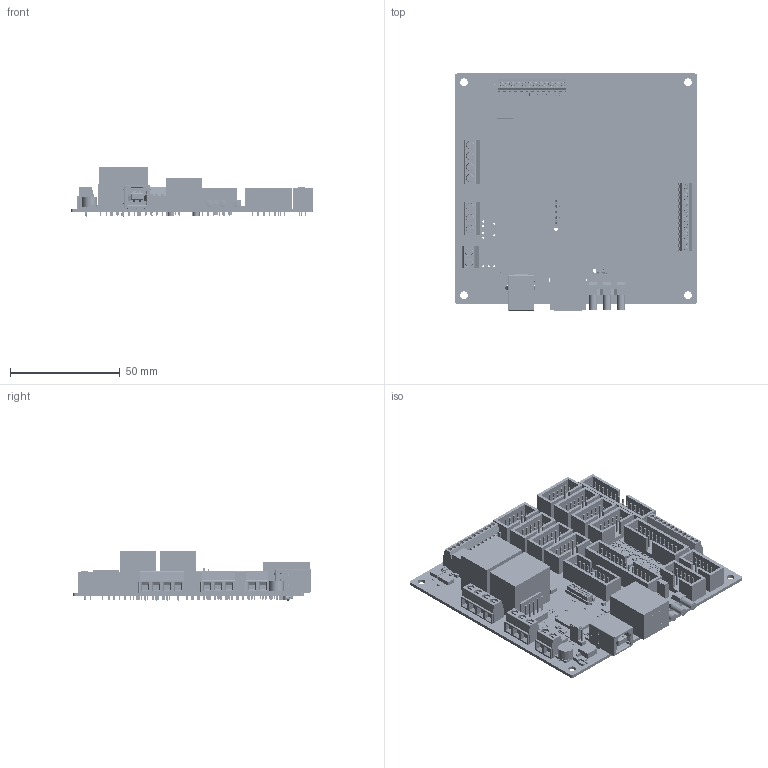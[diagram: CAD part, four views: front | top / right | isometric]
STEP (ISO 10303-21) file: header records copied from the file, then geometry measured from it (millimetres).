
FILE_DESCRIPTION(('Open CASCADE Model'),'2;1');
FILE_NAME('Open CASCADE Shape Model','2016-01-28T15:09:48',('Author'),( 'Open CASCADE'),'Open CASCADE STEP processor 6.8','Open CASCADE 6.8' ,'Unknown');
FILE_SCHEMA(('AUTOMOTIVE_DESIGN { 1 0 10303 214 1 1 1 1 }'));
Length unit declared in the file: millimetre
Products named in the file (464): PCB; Board; R122; 743849736; Extruded; 743849600; R121; 743849872; R115; 849168896; R114; R112; R111; C125; 743848104; 743847968; C124; C123; C122; 743848512; C121; C120; C116; 1176890888; 1176891024; C115; C114; C112; C110; C108; IC100; 849169168; C97; LightPipe1; 5151069f; L79; 849163184; 849163048; C95; STATUS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
Assembly tree (1249 placements, depth 4):
  PCB
    Board
    R122
      743849736  x2
        Extruded
      743849600
        Extruded
    R121
      743849872  x2
        Extruded
      743849600
        Extruded
    R115
      849168896
        Extruded
    R114
      849168896
        Extruded
    R112
      849168896
        Extruded
    R111
      849168896
        Extruded
    C125
      743848104
        Extruded
      743847968  x2
        Extruded
    C124
      743848104
        Extruded
      743847968  x2
        Extruded
    C123
      743848104
        Extruded
      743847968  x2
        Extruded
    C122
      743848104
        Extruded
      743848512  x2
        Extruded
    C121
      743848104
        Extruded
      743847968  x2
        Extruded
    C120
      743848104
        Extruded
      743848512  x2
        Extruded
    C116
      1176890888
        Extruded
      1176891024  x8
        Extruded
    C115
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Bounding box: 110 x 108.1 x 22.7 mm (x, y, z)
Volume: 64722 mm3; surface area: 79720.2 mm2
Topology: 893 solids, 917 shells, 10468 faces, 24438 edges, 16114 vertices
Faces by surface type: plane 8830, cylinder 1291, bspline 187, cone 118, torus 36, sphere 6
Full cylindrical faces by diameter (mm): 0.8 x4, 0.85 x14, 0.9 x116, 0.92 x4, 0.991 x6, 1 x97, 1.1 x33, 1.3 x10, 1.63 x2, 1.8 x2, 1.93 x2, 2.3 x2, 3 x2, 3.25 x2, 3.5 x4, 6.8 x1
Entity records: 451898 total; most frequent: CARTESIAN_POINT 203017, DIRECTION 43138, LINE 26308, VECTOR 26308, ORIENTED_EDGE 24006, PCURVE 24006, DEFINITIONAL_REPRESENTATION 24006, EDGE_CURVE 12003
